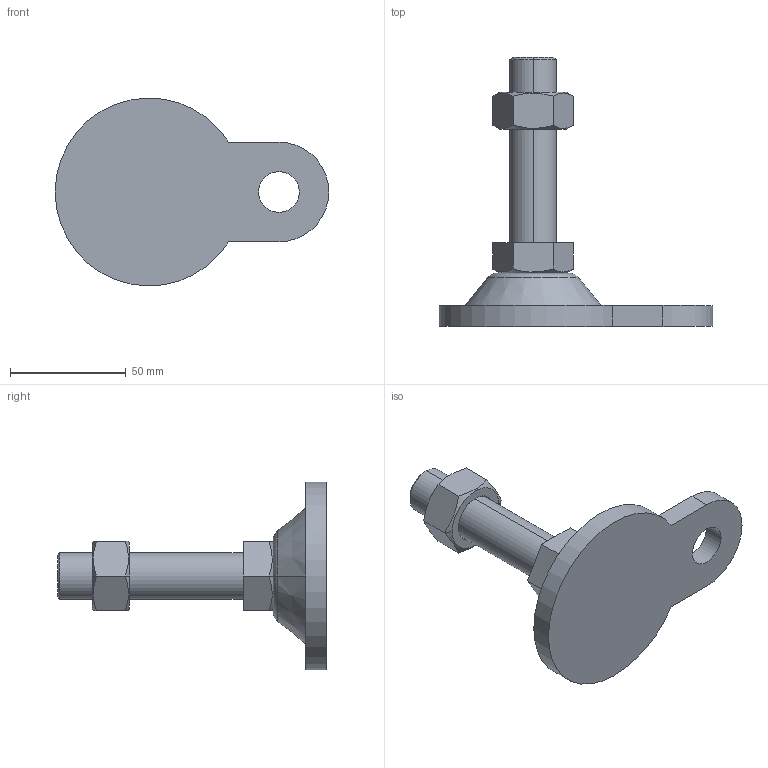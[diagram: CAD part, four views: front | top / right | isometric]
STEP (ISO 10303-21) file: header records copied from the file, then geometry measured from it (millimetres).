
FILE_DESCRIPTION (( 'STEP AP214' ), '1' );
FILE_NAME ('ARB81-M20-80.step', '2021-01-07T07:18:38', ( '' ), ( '' ), 'SwSTEP 2.0', 'SolidWorks 2019', '' );
FILE_SCHEMA (( 'AUTOMOTIVE_DESIGN' ));
Length unit declared in the file: millimetre
Products named in the file (1): ARB81-M20-80
Bounding box: 118 x 116 x 80.98 mm (x, y, z)
Volume: 125108.5 mm3; surface area: 28371.2 mm2
Topology: 3 solids, 3 shells, 46 faces, 100 edges, 62 vertices
Faces by surface type: plane 22, cone 14, cylinder 8, torus 2
Entity records: 1482 total; most frequent: CARTESIAN_POINT 419, DIRECTION 212, ORIENTED_EDGE 200, EDGE_CURVE 100, AXIS2_PLACEMENT_3D 83, VERTEX_POINT 62, EDGE_LOOP 52, ADVANCED_FACE 46
